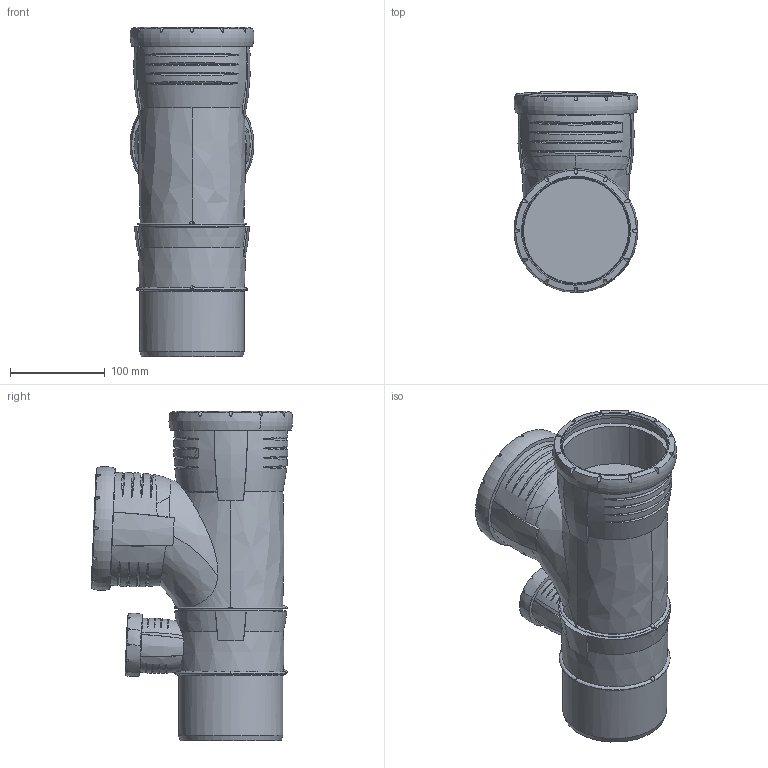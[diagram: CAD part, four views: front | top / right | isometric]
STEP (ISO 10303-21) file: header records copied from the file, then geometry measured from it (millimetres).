
FILE_DESCRIPTION(/* description */ (''),/* implementation_level */ '2;1');
FILE_NAME(/* name */ 'H:\Geberit-Teile\Export\Silent\stp\393558.stp',/* time_stamp */ '2017-03-30T11:39:22+02:00',/* author */ ('seihe2'),/* organization */ (''),/* preprocessor_version */ 'ST-DEVELOPER v15.2',/* originating_system */ 'Autodesk Inventor 2014',/* authorisation */ '');
FILE_SCHEMA (('AUTOMOTIVE_DESIGN { 1 0 10303 214 3 1 1 }'));
Length unit declared in the file: millimetre
Products named in the file (1): 393558
Bounding box: 130.93 x 212.82 x 347.7 mm (x, y, z)
Surface area: 295604.8 mm2 (no closed solid volume)
Topology: 0 solids, 1 shells, 292 faces, 825 edges, 536 vertices
Faces by surface type: bspline 159, plane 75, cone 38, cylinder 15, torus 5
Full cylindrical faces by diameter (mm): 51 x1, 60.1 x1, 110.2 x2, 111.3 x2, 121.5 x2
Entity records: 18133 total; most frequent: CARTESIAN_POINT 11931, ORIENTED_EDGE 1546, EDGE_CURVE 773, DIRECTION 772, VERTEX_POINT 527, B_SPLINE_CURVE_WITH_KNOTS 419, AXIS2_PLACEMENT_3D 343, EDGE_LOOP 336
